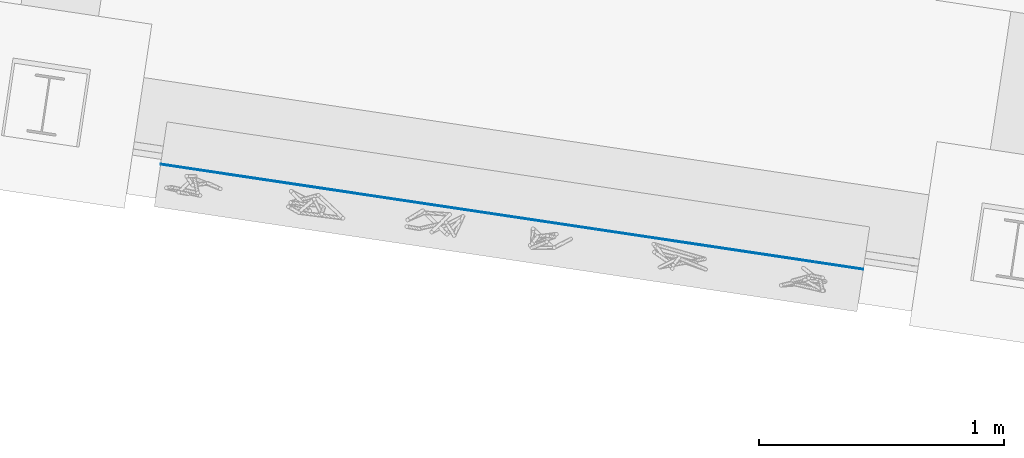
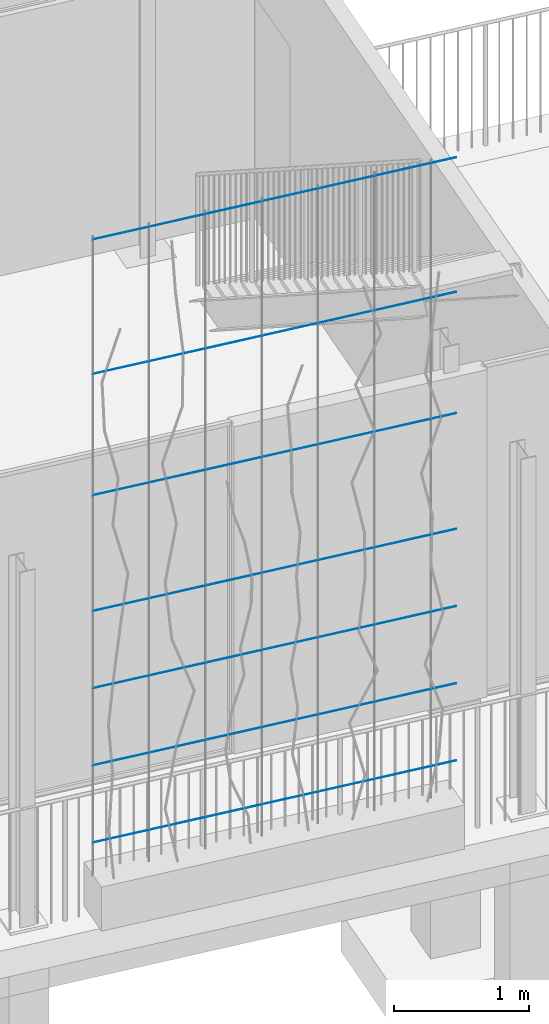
# One storey, part 90 of 143: 7 members, 1 element without a shape of its own.
"""IFC4 building model written with IfcOpenShell, lengths in metres."""

from ifc_helpers import new_model, si_unit, direction, frame, origin_with_axes, place, context, subcontext, project, spatial, circle, extrude, material, material_profile, profile_set, profile_usage, type_object, element, aggregate, save


model = new_model("IFC4")

# Units and contexts
model_context = context("Model", 3, precision=1e-05, world=origin_with_axes(), true_north=direction((0.0, 1.0)))
body_context = subcontext(model_context, "Body", "Model", "MODEL_VIEW")
ifc_project = project(units=[si_unit("VOLUMEUNIT", "CUBIC_METRE"), si_unit("LENGTHUNIT", "METRE"), si_unit("AREAUNIT", "SQUARE_METRE")], contexts=[model_context])

# Site, building, storey
site_placement = place(None, origin_with_axes())
site = spatial("IfcSite", under=ifc_project, at=site_placement, Name="Lares · Rua das Mercês · artigo 4771")
building_placement = place(site_placement, frame((15.0, 9.7, 15.8), z_axis=(0.0, 0.0, 1.0), x_axis=(0.989015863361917, -0.147809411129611, 0.0)))
building = spatial("IfcBuilding", under=site, at=building_placement, Name="Casa Sobreposta")
storey_placement = place(building_placement, origin_with_axes())
storey = spatial("IfcBuildingStorey", under=building, at=storey_placement, Name="00 · Habitação e estacionamento", Elevation=15.8)

# Assembly, members
assembly_placement = place(storey_placement, origin_with_axes())
assembly = element("IfcElementAssembly", 1, at=assembly_placement, inside=storey, Name="Fachada sul e pátio · estrutura e trepadeiras", ObjectType="LIVING_SHADE_TRELLIS", PredefinedType="USERDEFINED")
ifc_material = material(Name="Aço galvanizado / Stahl verzinkt", Category="steel")
ifc_material_profile = material_profile(ifc_material, circle(Radius=0.002))
ifc_profile_set = profile_set([ifc_material_profile], Name="D0.004")
ifc_profile_usage_1 = profile_usage(ifc_profile_set)
member_type = type_object("IfcMemberType", Name="D0.004 / galvanized", PredefinedType="NOTDEFINED", material=ifc_profile_set)
member_1_placement = place(assembly_placement, frame((20.5, -1.61, 0.65), z_axis=(1.0, 0.0, 0.0), x_axis=(0.0, -1.0, 0.0)))
member_1 = element("IfcMember", 2, at=member_1_placement, type_object=member_type, material=ifc_profile_usage_1, Name="Trepadeiras · fio horizontal", context=body_context, shape_type="SweptSolid", body=[
    extrude(circle(Radius=0.002), origin_with_axes(), (0.0, 0.0, 1.0), 2.9),
])
ifc_profile_usage_2 = profile_usage(ifc_profile_set)
member_2_placement = place(assembly_placement, frame((20.5, -1.61, 1.35), z_axis=(1.0, 0.0, 0.0), x_axis=(0.0, -1.0, 0.0)))
member_2 = element("IfcMember", 3, at=member_2_placement, type_object=member_type, material=ifc_profile_usage_2, Name="Trepadeiras · fio horizontal", context=body_context, shape_type="SweptSolid", body=[
    extrude(circle(Radius=0.002), origin_with_axes(), (0.0, 0.0, 1.0), 2.9),
])
ifc_profile_usage_3 = profile_usage(ifc_profile_set)
member_3_placement = place(assembly_placement, frame((20.5, -1.61, 2.05), z_axis=(1.0, 0.0, 0.0), x_axis=(0.0, -1.0, 0.0)))
member_3 = element("IfcMember", 4, at=member_3_placement, type_object=member_type, material=ifc_profile_usage_3, Name="Trepadeiras · fio horizontal", context=body_context, shape_type="SweptSolid", body=[
    extrude(circle(Radius=0.002), origin_with_axes(), (0.0, 0.0, 1.0), 2.9),
])
ifc_profile_usage_4 = profile_usage(ifc_profile_set)
member_4_placement = place(assembly_placement, frame((20.5, -1.61, 2.75), z_axis=(1.0, 0.0, 0.0), x_axis=(0.0, -1.0, 0.0)))
member_4 = element("IfcMember", 5, at=member_4_placement, type_object=member_type, material=ifc_profile_usage_4, Name="Trepadeiras · fio horizontal", context=body_context, shape_type="SweptSolid", body=[
    extrude(circle(Radius=0.002), origin_with_axes(), (0.0, 0.0, 1.0), 2.9),
])
ifc_profile_usage_5 = profile_usage(ifc_profile_set)
member_5_placement = place(assembly_placement, frame((20.5, -1.61, 3.8), z_axis=(1.0, 0.0, 0.0), x_axis=(0.0, -1.0, 0.0)))
member_5 = element("IfcMember", 6, at=member_5_placement, type_object=member_type, material=ifc_profile_usage_5, Name="Trepadeiras · fio horizontal", context=body_context, shape_type="SweptSolid", body=[
    extrude(circle(Radius=0.002), origin_with_axes(), (0.0, 0.0, 1.0), 2.9),
])
ifc_profile_usage_6 = profile_usage(ifc_profile_set)
member_6_placement = place(assembly_placement, frame((20.5, -1.61, 4.9), z_axis=(1.0, 0.0, 0.0), x_axis=(0.0, -1.0, 0.0)))
member_6 = element("IfcMember", 7, at=member_6_placement, type_object=member_type, material=ifc_profile_usage_6, Name="Trepadeiras · fio horizontal", context=body_context, shape_type="SweptSolid", body=[
    extrude(circle(Radius=0.002), origin_with_axes(), (0.0, 0.0, 1.0), 2.9),
])
ifc_profile_usage_7 = profile_usage(ifc_profile_set)
member_7_placement = place(assembly_placement, frame((20.5, -1.61, 6.12), z_axis=(1.0, 0.0, 0.0), x_axis=(0.0, -1.0, 0.0)))
member_7 = element("IfcMember", 8, at=member_7_placement, type_object=member_type, material=ifc_profile_usage_7, Name="Trepadeiras · fio horizontal", context=body_context, shape_type="SweptSolid", body=[
    extrude(circle(Radius=0.002), origin_with_axes(), (0.0, 0.0, 1.0), 2.9),
])
aggregate(assembly, [member_1, member_2, member_3, member_4, member_5, member_6, member_7])

save(model, "model.ifc")
